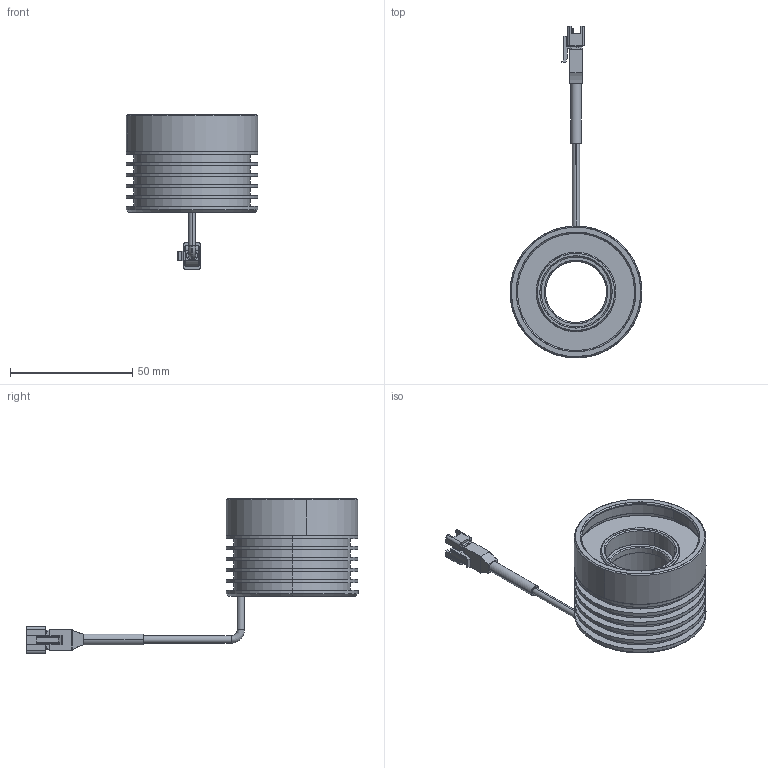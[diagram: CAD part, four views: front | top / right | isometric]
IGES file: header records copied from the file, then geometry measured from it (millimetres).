
Start section: SolidWorks IGES file using analytic representation for surfaces
Global section: file name: C:\Users\88691\Desktop\VOR (VHAT)\VOR-5430W-TCH110 (L1650A)\VOR-5430W-TCH110 _ Drawing _ L1650A-A00101.IGS; native system: SolidWorks 2020; preprocessor: SolidWorks 2020; author: 88691; date: 251023.142508; units: millimetre
Bounding box: 54 x 136 x 63.43 mm (x, y, z)
Surface area: 26928.8 mm2 (no closed solid volume)
Topology: 0 solids, 0 shells, 284 faces, 4724 edges, 4724 vertices
Faces by surface type: bspline 165, revolution 119
